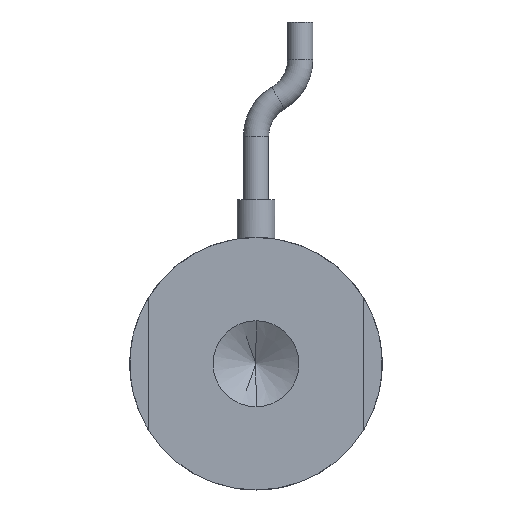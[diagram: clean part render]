
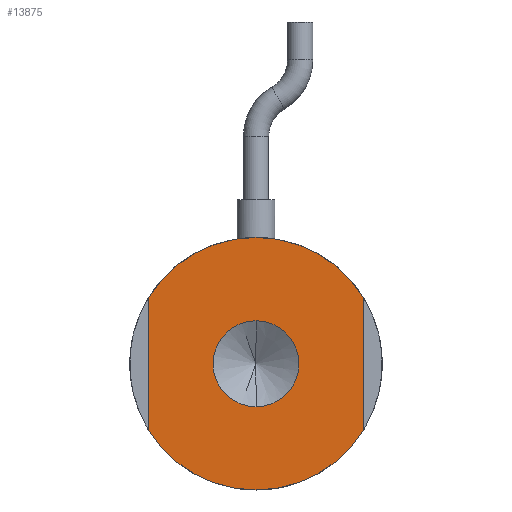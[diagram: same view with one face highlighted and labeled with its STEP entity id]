
A CAD part, front view. The second image highlights one B-rep face of the part: STEP entity #13875.
In plain terms, the highlighted planar face has unit normal (0, -1, 0).
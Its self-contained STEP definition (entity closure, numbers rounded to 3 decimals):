
#1896 = DIRECTION ( 'NONE',  ( 0., 0., 1. ) ) ;
#1905 = ORIENTED_EDGE ( 'NONE', *, *, #11524, .F. ) ;
#2057 = CIRCLE ( 'NONE', #42714, 10. ) ;
#2668 = CIRCLE ( 'NONE', #9651, 3.4 ) ;
#3387 = EDGE_CURVE ( 'NONE', #27926, #21838, #2668, .T. ) ;
#5156 = ORIENTED_EDGE ( 'NONE', *, *, #37004, .F. ) ;
#5739 = DIRECTION ( 'NONE',  ( 0., 1., 0. ) ) ;
#6031 = AXIS2_PLACEMENT_3D ( 'NONE', #14869, #38936, #18337 ) ;
#8308 = CARTESIAN_POINT ( 'NONE',  ( 8.5, 0., 0. ) ) ;
#8935 = ORIENTED_EDGE ( 'NONE', *, *, #30852, .F. ) ;
#9548 = PLANE ( 'NONE',  #41912 ) ;
#9651 = AXIS2_PLACEMENT_3D ( 'NONE', #35943, #15407, #39475 ) ;
#10348 = ORIENTED_EDGE ( 'NONE', *, *, #36559, .F. ) ;
#10602 = VERTEX_POINT ( 'NONE', #18677 ) ;
#11524 = EDGE_CURVE ( 'NONE', #21838, #27926, #24089, .T. ) ;
#12870 = FACE_BOUND ( 'NONE', #21476, .T. ) ;
#13029 = DIRECTION ( 'NONE',  ( 0., 1., 0. ) ) ;
#13875 = ADVANCED_FACE ( 'NONE', ( #12870, #23099 ), #9548, .F. ) ;
#14513 = VECTOR ( 'NONE', #28915, 1000. ) ;
#14728 = VERTEX_POINT ( 'NONE', #42628 ) ;
#14869 = CARTESIAN_POINT ( 'NONE',  ( 0., 0., 0. ) ) ;
#15055 = DIRECTION ( 'NONE',  ( 0., 1., 0. ) ) ;
#15407 = DIRECTION ( 'NONE',  ( 0., -1., 0. ) ) ;
#16189 = ORIENTED_EDGE ( 'NONE', *, *, #19087, .F. ) ;
#16927 = CARTESIAN_POINT ( 'NONE',  ( -8.5, 0., 0. ) ) ;
#17157 = DIRECTION ( 'NONE',  ( 0., 1., 0. ) ) ;
#18337 = DIRECTION ( 'NONE',  ( 0., 0., -1. ) ) ;
#18416 = VERTEX_POINT ( 'NONE', #44491 ) ;
#18562 = CIRCLE ( 'NONE', #37458, 10. ) ;
#18677 = CARTESIAN_POINT ( 'NONE',  ( 8.5, 0., -5.268 ) ) ;
#18944 = VECTOR ( 'NONE', #20533, 1000. ) ;
#19087 = EDGE_CURVE ( 'NONE', #14728, #36255, #19194, .T. ) ;
#19194 = CIRCLE ( 'NONE', #29620, 10. ) ;
#20533 = DIRECTION ( 'NONE',  ( 0., 0., 1. ) ) ;
#21476 = EDGE_LOOP ( 'NONE', ( #1905, #29205 ) ) ;
#21838 = VERTEX_POINT ( 'NONE', #27129 ) ;
#22559 = DIRECTION ( 'NONE',  ( 0., 1., 0. ) ) ;
#22924 = EDGE_CURVE ( 'NONE', #18416, #41850, #18562, .T. ) ;
#23099 = FACE_OUTER_BOUND ( 'NONE', #30862, .T. ) ;
#24089 = CIRCLE ( 'NONE', #6031, 3.4 ) ;
#26377 = CARTESIAN_POINT ( 'NONE',  ( 0., 0., 0. ) ) ;
#27129 = CARTESIAN_POINT ( 'NONE',  ( 0., 0., -3.4 ) ) ;
#27926 = VERTEX_POINT ( 'NONE', #37364 ) ;
#27954 = EDGE_CURVE ( 'NONE', #41850, #40160, #37204, .T. ) ;
#28495 = CIRCLE ( 'NONE', #34671, 10. ) ;
#28915 = DIRECTION ( 'NONE',  ( 0., 0., -1. ) ) ;
#29205 = ORIENTED_EDGE ( 'NONE', *, *, #3387, .F. ) ;
#29620 = AXIS2_PLACEMENT_3D ( 'NONE', #43210, #22559, #1896 ) ;
#29842 = DIRECTION ( 'NONE',  ( 0., 0., 1. ) ) ;
#30852 = EDGE_CURVE ( 'NONE', #10602, #18416, #28495, .T. ) ;
#30862 = EDGE_LOOP ( 'NONE', ( #41724, #33842, #8935, #10348, #16189, #5156 ) ) ;
#32416 = CARTESIAN_POINT ( 'NONE',  ( 8.5, 0., 5.268 ) ) ;
#33807 = CARTESIAN_POINT ( 'NONE',  ( -8.5, 0., -5.268 ) ) ;
#33842 = ORIENTED_EDGE ( 'NONE', *, *, #22924, .F. ) ;
#34671 = AXIS2_PLACEMENT_3D ( 'NONE', #37743, #17157, #41276 ) ;
#35606 = CARTESIAN_POINT ( 'NONE',  ( 0., 0., 0. ) ) ;
#35943 = CARTESIAN_POINT ( 'NONE',  ( 0., 0., 0. ) ) ;
#36255 = VERTEX_POINT ( 'NONE', #32416 ) ;
#36559 = EDGE_CURVE ( 'NONE', #36255, #10602, #42018, .T. ) ;
#37004 = EDGE_CURVE ( 'NONE', #40160, #14728, #2057, .T. ) ;
#37078 = DIRECTION ( 'NONE',  ( 0., 0., 1. ) ) ;
#37204 = LINE ( 'NONE', #16927, #18944 ) ;
#37364 = CARTESIAN_POINT ( 'NONE',  ( 0., 0., 3.4 ) ) ;
#37458 = AXIS2_PLACEMENT_3D ( 'NONE', #26377, #5739, #29842 ) ;
#37743 = CARTESIAN_POINT ( 'NONE',  ( 0., 0., 0. ) ) ;
#38936 = DIRECTION ( 'NONE',  ( 0., -1., 0. ) ) ;
#39122 = DIRECTION ( 'NONE',  ( 0., 0., 1. ) ) ;
#39475 = DIRECTION ( 'NONE',  ( 0., 0., -1. ) ) ;
#40160 = VERTEX_POINT ( 'NONE', #42059 ) ;
#40471 = CARTESIAN_POINT ( 'NONE',  ( 0., 0., 0. ) ) ;
#41276 = DIRECTION ( 'NONE',  ( 0., 0., 1. ) ) ;
#41724 = ORIENTED_EDGE ( 'NONE', *, *, #27954, .F. ) ;
#41850 = VERTEX_POINT ( 'NONE', #33807 ) ;
#41912 = AXIS2_PLACEMENT_3D ( 'NONE', #40471, #13029, #37078 ) ;
#42018 = LINE ( 'NONE', #8308, #14513 ) ;
#42059 = CARTESIAN_POINT ( 'NONE',  ( -8.5, 0., 5.268 ) ) ;
#42628 = CARTESIAN_POINT ( 'NONE',  ( 0., 0., 10. ) ) ;
#42714 = AXIS2_PLACEMENT_3D ( 'NONE', #35606, #15055, #39122 ) ;
#43210 = CARTESIAN_POINT ( 'NONE',  ( 0., 0., 0. ) ) ;
#44491 = CARTESIAN_POINT ( 'NONE',  ( 0., 0., -10. ) ) ;
